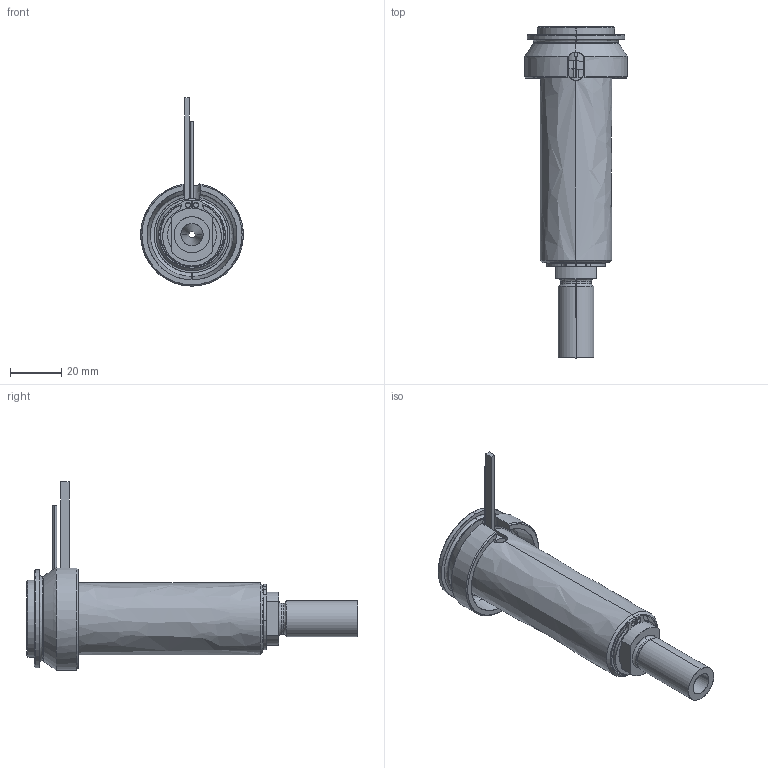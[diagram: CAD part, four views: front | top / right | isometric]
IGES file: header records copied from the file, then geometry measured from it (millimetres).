
Start section: SolidWorks IGES file using analytic representation for surfaces
Global section: file name: C:\Documents and Settings\ws-20\Desktop\TEMPORANEA\UGBE4002-M-A-P-5 [Ød-2.5 P-25 ØC-09].IGS; native system: SolidWorks 2012; preprocessor: SolidWorks 2012; author: ws-20; date: 120306.123430; units: millimetre
Bounding box: 40 x 129.25 x 73.3 mm (x, y, z)
Surface area: 33791.1 mm2 (no closed solid volume)
Topology: 0 solids, 0 shells, 103 faces, 1697 edges, 1697 vertices
Faces by surface type: revolution 60, bspline 43
